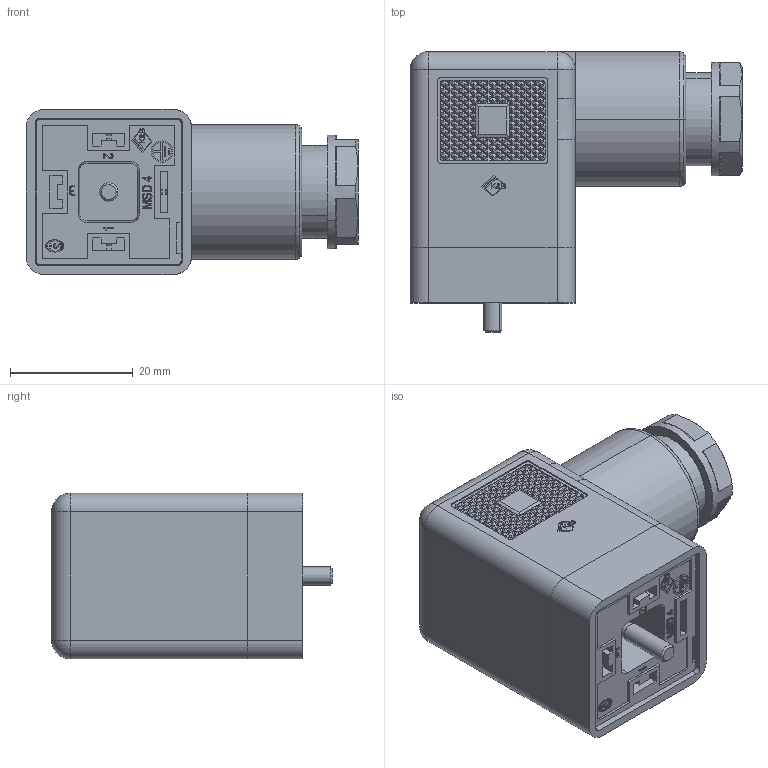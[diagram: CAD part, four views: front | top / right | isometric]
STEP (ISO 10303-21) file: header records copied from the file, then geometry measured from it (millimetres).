
FILE_DESCRIPTION((''),'2;1');
FILE_NAME('EINBAUMODEL-45MM-BGR-1_ASM','2022-09-28T10:14:13',('j.guenther'),(''),'CREO PARAMETRIC BY PTC INC, 2020044','CREO PARAMETRIC BY PTC INC, 2020044','');
FILE_SCHEMA(('AUTOMOTIVE_DESIGN { 1 0 10303 214 1 1 1 1 }'));
Products named in the file (13): 5555_6; 4444_12; 666_2_1; 666_2_2; 666_2_3; 666_2_4; 666_2_5; 666_2_6; 666_2_7; 666_2_8; 666_2_ASM; ASM0001_ASM_9_ASM; EINBAUMODEL-45MM-BGR-1_ASM
Assembly tree (12 placements, depth 4):
  EINBAUMODEL-45MM-BGR-1_ASM
    ASM0001_ASM_9_ASM
      5555_6
      4444_12
      666_2_ASM
        666_2_1
        666_2_2
        666_2_3
        666_2_4
        666_2_5
        666_2_6
        666_2_7
        666_2_8
Bounding box: 54.18 x 45.8 x 27 mm (x, y, z)
Volume: 34432.5 mm3; surface area: 13771.7 mm2
Topology: 10 solids, 11 shells, 2648 faces, 5334 edges, 2754 vertices
Faces by surface type: plane 2285, cylinder 153, extrusion 110, cone 36, torus 28, bspline 22, sphere 14
Entity records: 86407 total; most frequent: CARTESIAN_POINT 13899, ORIENTED_EDGE 10632, DIRECTION 10590, EDGE_CURVE 5316, VECTOR 4530, LINE 4420, AXIS2_PLACEMENT_3D 3030, VERTEX_POINT 2754
